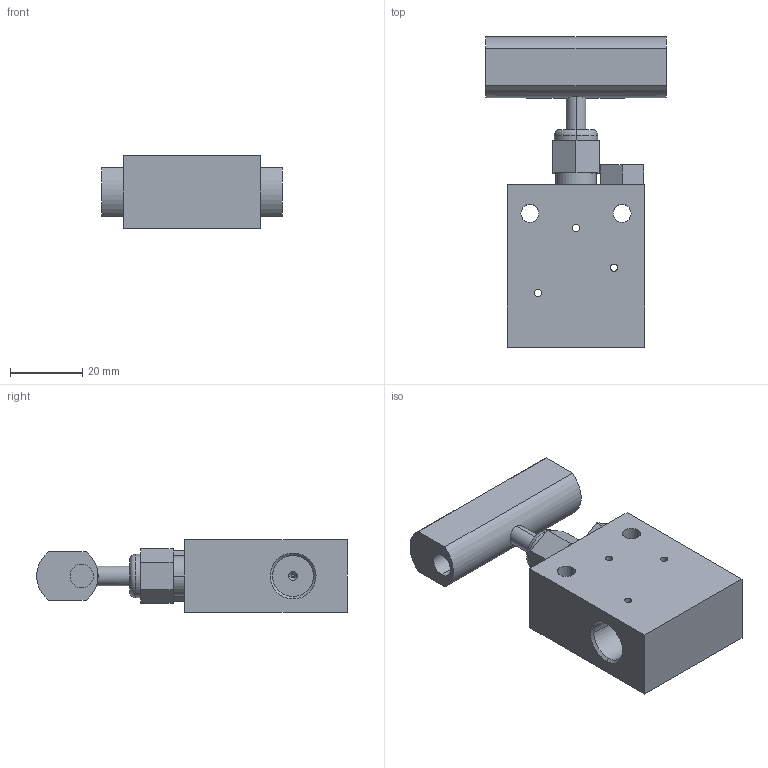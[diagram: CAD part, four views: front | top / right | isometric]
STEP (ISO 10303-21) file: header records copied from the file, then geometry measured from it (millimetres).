
FILE_DESCRIPTION (( 'STEP AP203' ), '1' );
FILE_NAME ('NV30VS02-S-00-00.STEP', '2023-02-27T02:25:50', ( 'USER' ), ( '' ), 'SwSTEP 2.0', 'SolidWorks 2020', '' );
FILE_SCHEMA (( 'CONFIG_CONTROL_DESIGN' ));
Length unit declared in the file: millimetre
Products named in the file (1): NV30VS02-S-00-00
Bounding box: 50 x 85.92 x 20 mm (x, y, z)
Volume: 43086.8 mm3; surface area: 13055.2 mm2
Topology: 1 solids, 1 shells, 89 faces, 214 edges, 136 vertices
Faces by surface type: cylinder 42, plane 33, cone 12, torus 2
Entity records: 3017 total; most frequent: CARTESIAN_POINT 794, DIRECTION 456, ORIENTED_EDGE 428, EDGE_CURVE 214, AXIS2_PLACEMENT_3D 172, VERTEX_POINT 136, EDGE_LOOP 116, VECTOR 112
